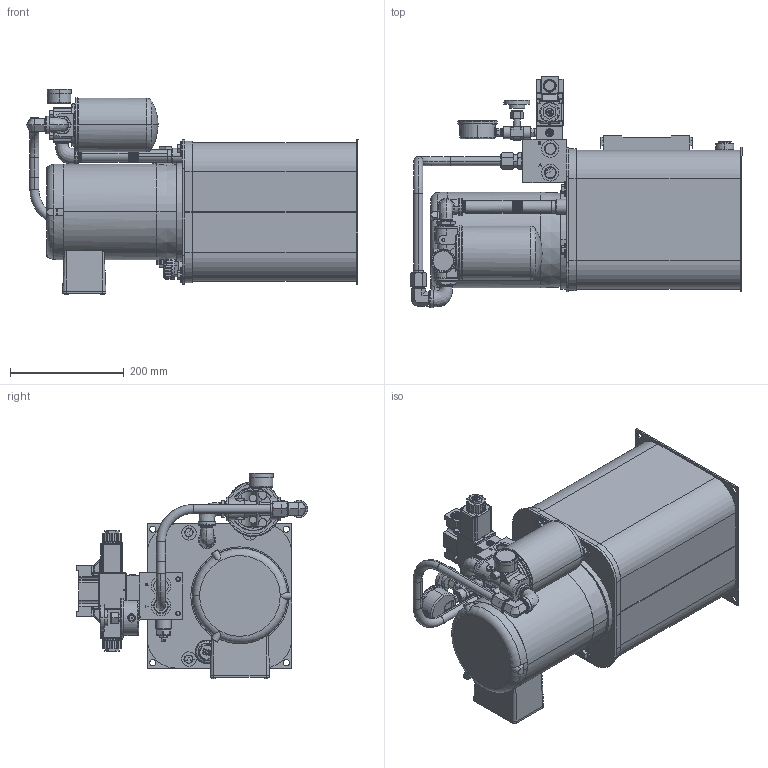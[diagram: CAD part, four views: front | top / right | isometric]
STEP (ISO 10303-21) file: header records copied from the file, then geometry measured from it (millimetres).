
FILE_DESCRIPTION (( 'STEP AP214' ), '1' );
FILE_NAME ('T3V-10-M-P1-F1-034.STEP', '2021-09-09T16:06:47', ( '' ), ( '' ), 'SwSTEP 2.0', 'SolidWorks 2020', '' );
FILE_SCHEMA (( 'AUTOMOTIVE_DESIGN' ));
Length unit declared in the file: inch
Products named in the file (1): T3V-10-M-P1-F1-034
Bounding box: 584.31 x 407.03 x 361.83 mm (x, y, z)
Surface area: 1040945.7 mm2 (no closed solid volume)
Topology: 0 solids, 118 shells, 1517 faces, 6370 edges, 4887 vertices
Faces by surface type: plane 603, cylinder 381, cone 342, bspline 84, torus 78, sphere 29
Entity records: 138184 total; most frequent: CARTESIAN_POINT 69159, ORIENTED_EDGE 9427, DIRECTION 9406, EDGE_CURVE 6345, VERTEX_POINT 4887, VECTOR 3350, LINE 3350, AXIS2_PLACEMENT_3D 3028
